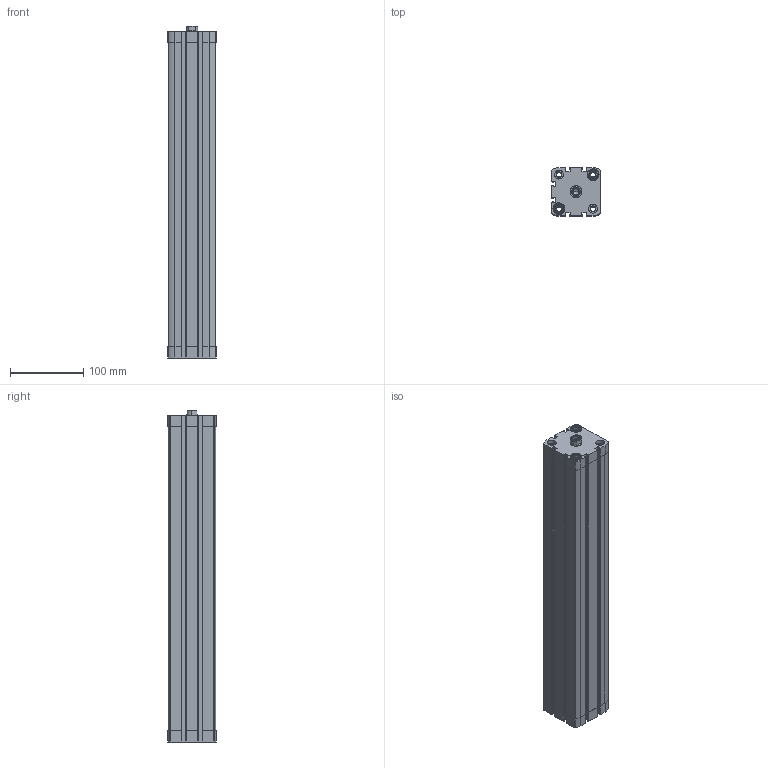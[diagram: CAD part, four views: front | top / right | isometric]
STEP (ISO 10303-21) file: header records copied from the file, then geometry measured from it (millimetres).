
FILE_DESCRIPTION (( 'STEP AP203' ), '1' );
FILE_NAME ('CCN50-400F.STEP', '2017-04-05T12:50:41', ( '' ), ( '' ), 'SwSTEP 2.0', 'SolidWorks 2016', '' );
FILE_SCHEMA (( 'CONFIG_CONTROL_DESIGN' ));
Length unit declared in the file: millimetre
Products named in the file (3): CCN-400_(KS); CCN50-400F; CCN-400----(Z)
Assembly tree (2 placements, depth 2):
  CCN50-400F
    CCN-400----(Z)
    CCN-400_(KS)
Bounding box: 65.5 x 65.5 x 452.7 mm (x, y, z)
Volume: 1008479.3 mm3; surface area: 290326.2 mm2
Topology: 2 solids, 2 shells, 471 faces, 1280 edges, 843 vertices
Faces by surface type: plane 219, cylinder 210, cone 42
Entity records: 15369 total; most frequent: CARTESIAN_POINT 2891, DIRECTION 2608, ORIENTED_EDGE 2556, EDGE_CURVE 1278, AXIS2_PLACEMENT_3D 952, VERTEX_POINT 843, LINE 704, VECTOR 704
